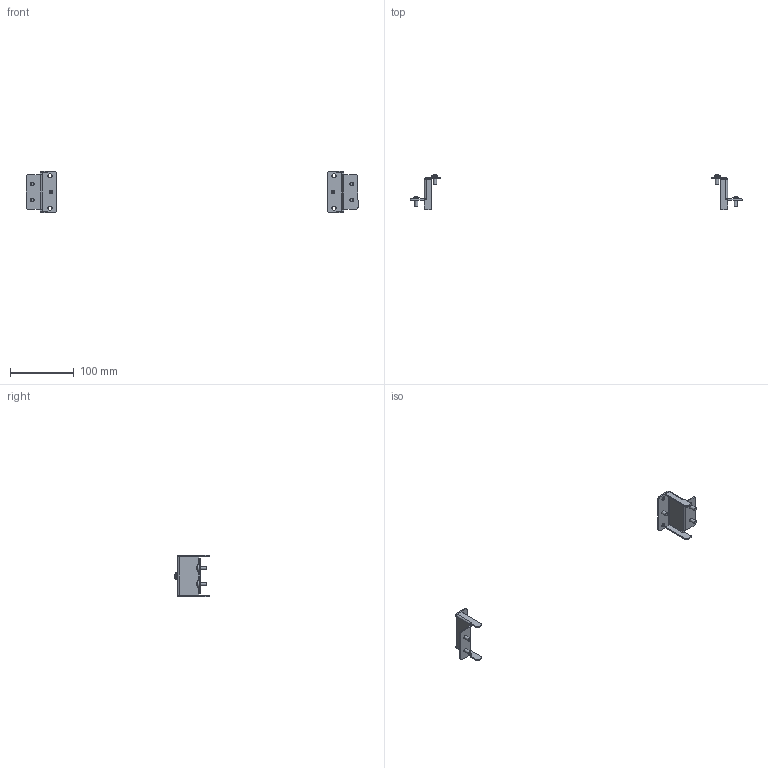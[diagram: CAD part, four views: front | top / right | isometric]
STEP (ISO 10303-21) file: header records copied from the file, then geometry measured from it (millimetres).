
FILE_DESCRIPTION (( 'STEP AP203' ), '1' );
FILE_NAME ('R6BRBBH1P.STEP', '2025-05-27T12:53:00', ( '' ), ( '' ), 'SwSTEP 2.0', 'SolidWorks 2022', '' );
FILE_SCHEMA (( 'CONFIG_CONTROL_DESIGN' ));
Length unit declared in the file: millimetre
Products named in the file (3): RB.3331.00.00.0; M5x12 DIN 7500 C Torx Zinc_stright; R6BRBBH1P
Assembly tree (8 placements, depth 2):
  R6BRBBH1P
    RB.3331.00.00.0  x2
    M5x12 DIN 7500 C Torx Zinc_stright  x6
Bounding box: 520 x 55.06 x 65.2 mm (x, y, z)
Volume: 25100.1 mm3; surface area: 27082.8 mm2
Topology: 8 solids, 8 shells, 222 faces, 486 edges, 286 vertices
Faces by surface type: plane 128, cylinder 58, torus 12, cone 12, sphere 6, bspline 6
Full cylindrical faces by diameter (mm): 4.2 x2, 5 x6, 6 x4, 6.5 x4, 9.5 x6
Entity records: 2803 total; most frequent: CARTESIAN_POINT 564, DIRECTION 396, ORIENTED_EDGE 332, EDGE_CURVE 166, AXIS2_PLACEMENT_3D 148, VERTEX_POINT 104, EDGE_LOOP 102, VECTOR 100
